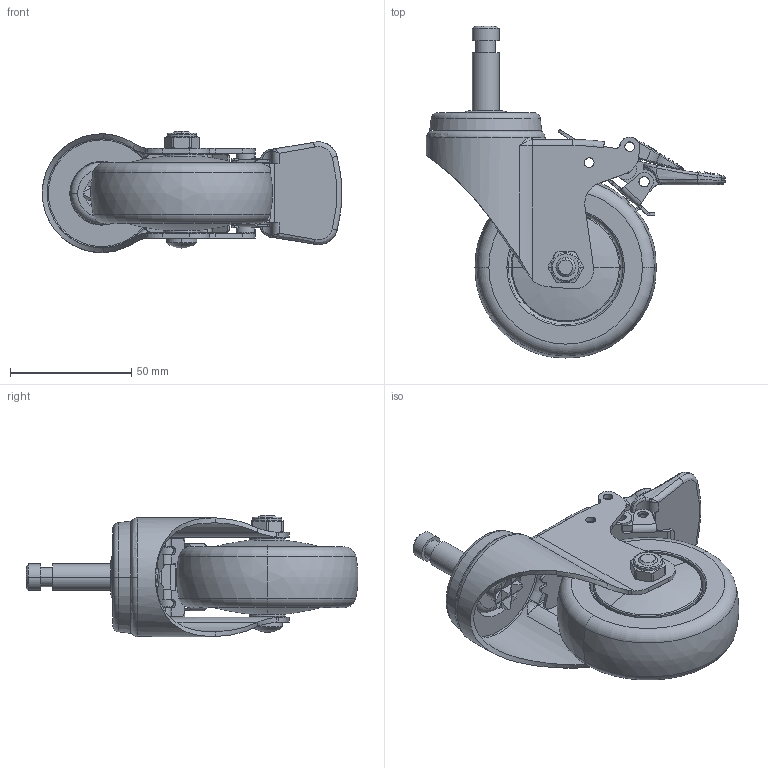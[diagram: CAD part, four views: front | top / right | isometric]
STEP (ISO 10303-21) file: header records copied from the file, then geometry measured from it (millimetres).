
FILE_DESCRIPTION((''),'2;1');
FILE_NAME('37163H_ASM','2026-07-09T',('Lenovo'),(''),'PRO/ENGINEER BY PARAMETRIC TECHNOLOGY CORPORATION, 2010280','PRO/ENGINEER BY PARAMETRIC TECHNOLOGY CORPORATION, 2010280','');
FILE_SCHEMA(('CONFIG_CONTROL_DESIGN'));
Length unit declared in the file: millimetre
Products named in the file (12): 3713-321; 350-25; 360-03; 373-907; 373-69; 373-77_ASM; 350-33A; 300-34; 370-64; 371-64; 37125-401; 37163H_ASM
Assembly tree (12 placements, depth 3):
  37163H_ASM
    3713-321
    350-25
    360-03
    373-77_ASM
      373-907
      373-69  x2
    350-33A
    300-34
    370-64
    371-64
    37125-401
Bounding box: 123.48 x 136.9 x 49.98 mm (x, y, z)
Volume: 136559.5 mm3; surface area: 67395.4 mm2
Topology: 11 solids, 11 shells, 890 faces, 2163 edges, 1316 vertices
Faces by surface type: plane 370, cylinder 250, bspline 150, torus 78, cone 40, sphere 2
Entity records: 33465 total; most frequent: CARTESIAN_POINT 13710, ORIENTED_EDGE 4202, DIRECTION 3846, EDGE_CURVE 2101, AXIS2_PLACEMENT_3D 1375, VERTEX_POINT 1282, VECTOR 1096, LINE 1096
